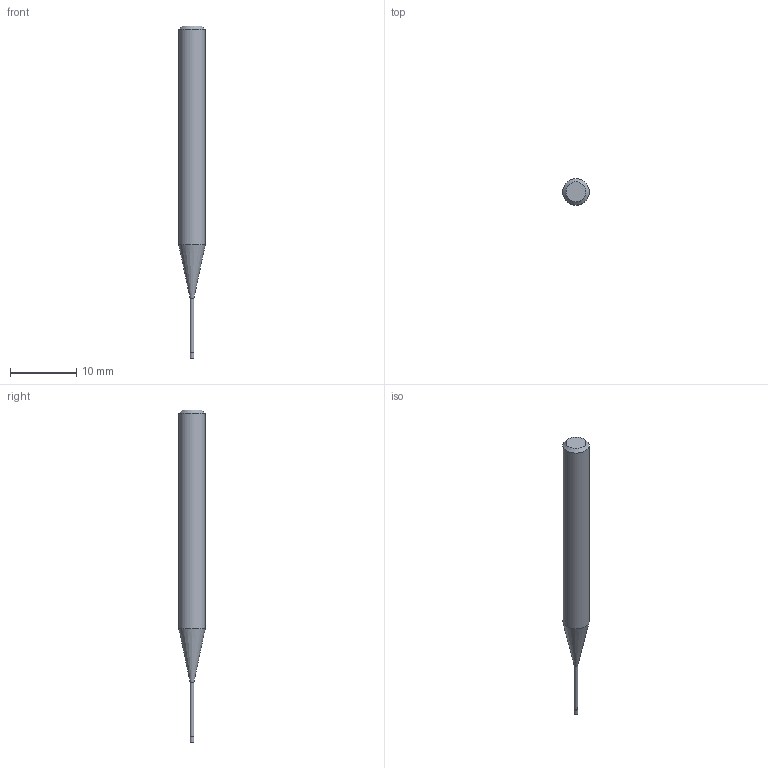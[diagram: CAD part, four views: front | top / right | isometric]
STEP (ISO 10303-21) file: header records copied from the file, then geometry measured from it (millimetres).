
FILE_DESCRIPTION((''),'2;1');
FILE_NAME('C:\Users\nsx150\AppData\Local\Temp\Mastercam 2021\17T8Q8S9EB\TEMP.step','2021-04-21T14:24:55',(''),(''),'STEP Write','Mastercam 2021 ... CNC Software, Inc.','');
FILE_SCHEMA(('AUTOMOTIVE_DESIGN'));
Length unit declared in the file: millimetre
Products named in the file (1): None
Bounding box: 4 x 4 x 50 mm (x, y, z)
Volume: 453.6 mm3; surface area: 498.1 mm2
Topology: 2 solids, 2 shells, 9 faces, 12 edges, 7 vertices
Faces by surface type: plane 4, cylinder 3, cone 2
Full cylindrical faces by diameter (mm): 0.56 x1, 0.6 x1, 4 x1
Entity records: 211 total; most frequent: DIRECTION 36, CARTESIAN_POINT 25, AXIS2_PLACEMENT_3D 18, ORIENTED_EDGE 14, EDGE_LOOP 14, STYLED_ITEM 12, ADVANCED_FACE 9, FACE_BOUND 8
